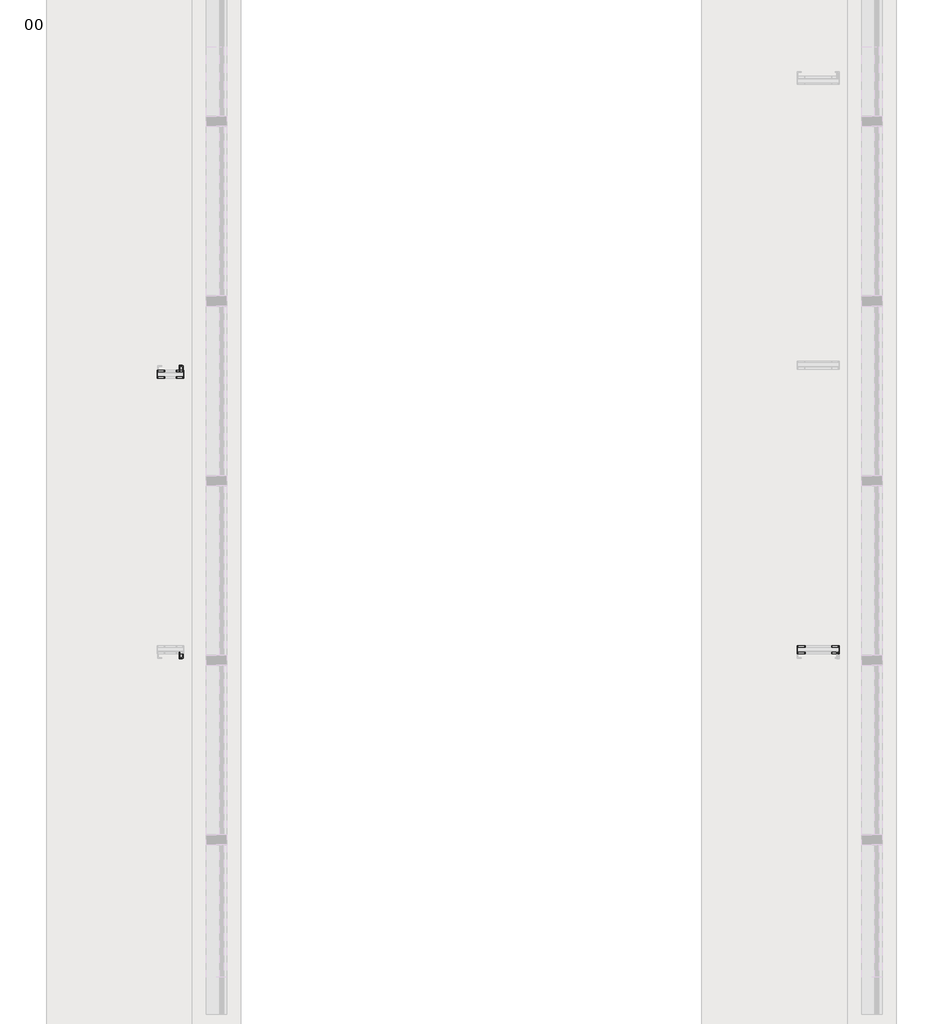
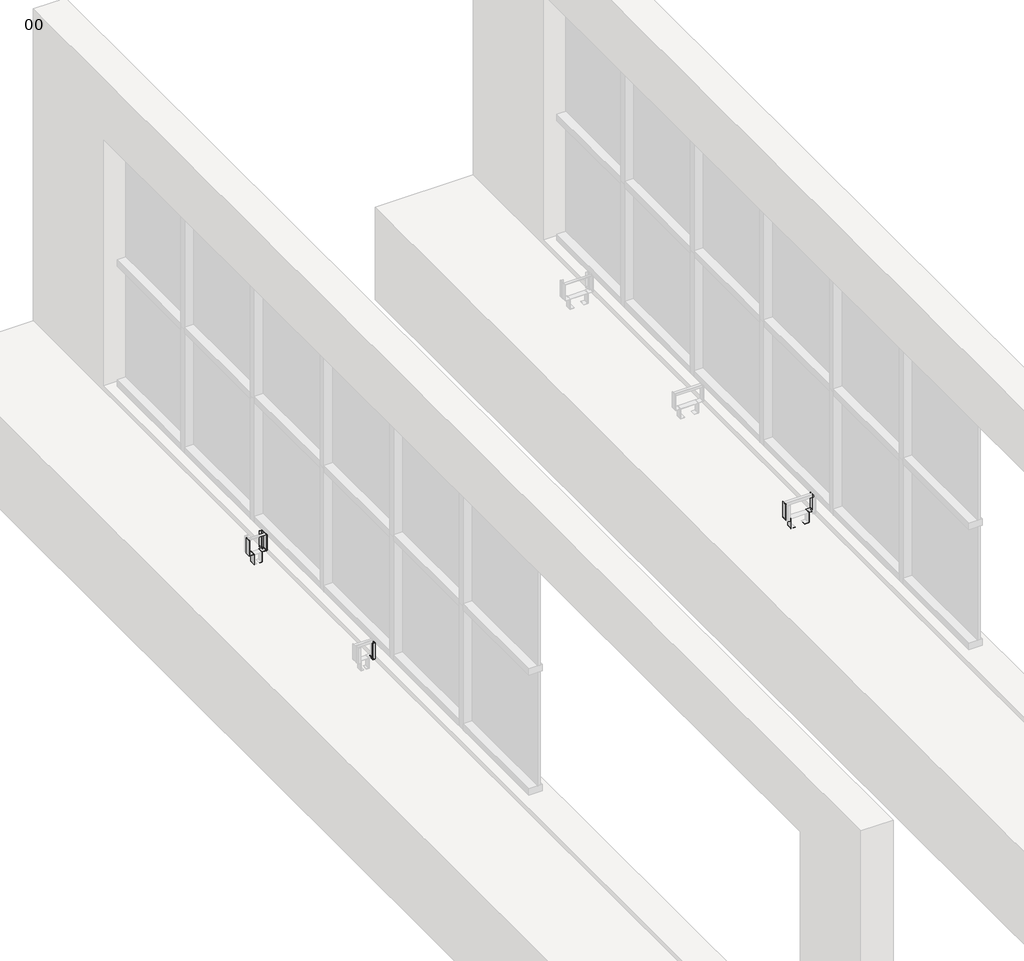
# One storey, part 3 of 4: 6 proxies.
"""IFC4 building model written with IfcOpenShell, lengths in millimetres."""

from ifc_helpers import new_model, si_unit, point, frame, frame_2d, origin, place, context, project, spatial, polyline, circle_curve, trimmed, segment, composite_curve, outline, extrude, element, save
from ifc_brep_helpers import plane_surface, cylinder_surface, revolved_surface, advanced_brep

model = new_model("IFC4")

# Units and contexts
model_context = context("Model", 3, world=origin())
ifc_project = project(units=[si_unit("LENGTHUNIT", "METRE", prefix="MILLI")], contexts=[model_context])

# Site, building, storey
site = spatial("IfcSite", under=ifc_project)
building = spatial("IfcBuilding", under=site)
storey = spatial("IfcBuildingStorey", under=building, Name="00", Elevation=0.0)

# Proxies
placement = place(None, origin())
element("IfcBuildingElementProxy", 1, Name="Support Bracket 17 : Support Bracket 4", ObjectType="Support Bracket 17 : Support Bracket 4", at=placement, inside=storey, context=model_context, shape_type="SweptSolid", body=[
    extrude(outline(composite_curve([segment(trimmed(circle_curve(frame_2d((11786.809734, 1034.8022928)), 1.524), [point((11788.333734, 1034.8022928))], [point((11786.809734, 1033.2782928))], False, "CARTESIAN"), True, "CONTINUOUS"), segment(polyline([(11786.809734, 1033.2782928), (11762.933734, 1033.2782928), (11762.933734, 1036.4532928), (11783.634734, 1036.4532928)]), True, "CONTINUOUS"), segment(trimmed(circle_curve(frame_2d((11783.634734, 1037.9772928)), 1.524), [point((11783.634734, 1036.4532928))], [point((11785.158734, 1037.9772928))], True, "CARTESIAN"), True, "CONTINUOUS"), segment(polyline([(11785.158734, 1037.9772928), (11785.158734, 1058.6782928), (11788.333734, 1058.6782928), (11788.333734, 1034.8022928)]), True, "CONTINUOUS")], self_intersect=False)), frame((0.0, 0.0, 1014.7101563), z_axis=(0.0, 0.0, 1.0), x_axis=(1.0, 0.0, 0.0)), (0.0, 0.0, 1.0), 155.3941284),
])
element("IfcBuildingElementProxy", 2, Name="Support Bracket 19 : Support Bracket 5", ObjectType="Support Bracket 19 : Support Bracket 5", at=placement, inside=storey, context=model_context, shape_type="AdvancedBrep", body=[
    advanced_brep(
    [(11767.4809261, 1079.4639543, 1025.7141928), (11767.4809261, 1079.4639543, 1015.1226469), (11769.7878177, 1079.4639543, 1012.8157553), (11780.1809261, 1079.4639543, 1012.8157553), (11780.1809261, 1079.4639543, 1009.6407553), (11768.4519892, 1079.4639543, 1009.6407553), (11764.3059261, 1079.4639543, 1013.7868184), (11764.3059261, 1079.4639543, 1025.7141928), (11767.4809261, 1030.7382928, 1025.7141928), (11764.3059261, 1030.7382928, 1025.7141928), (11764.3059261, 1030.7382928, 1013.7868184), (11768.4519892, 1030.7382928, 1009.6407553), (11780.1809261, 1030.7382928, 1009.6407553), (11780.1809261, 1030.7382928, 1012.8157553), (11769.7878177, 1030.7382928, 1012.8157553), (11767.4809261, 1030.7382928, 1015.1226469), (11767.4809261, 1033.2782928, 1025.7141928), (11764.3059261, 1033.2782928, 1025.7141928), (11764.3059261, 1033.2782928, 1014.7101563), (11764.3059261, 1036.4532928, 1014.7101563), (11764.3059261, 1036.4532928, 1025.7141928), (11767.4809261, 1036.4532928, 1015.1226469), (11767.518104, 1036.4532928, 1014.7101563), (11767.518104, 1033.2782928, 1014.7101563), (11767.4809261, 1033.2782928, 1015.1226469), (11767.4809261, 1036.4532928, 1025.7141928)],
    [
        (0, 1),
        (1, 2, circle_curve(frame((11769.7878177, 1079.4639543, 1015.1226469), z_axis=(0.0, -1.0, 0.0), x_axis=(1.0, 0.0, 0.0)), 2.3068916)),
        (2, 3),
        (3, 4),
        (4, 5),
        (5, 6, circle_curve(frame((11768.4519892, 1079.4639543, 1013.7868184), z_axis=(0.0, 1.0, 0.0), x_axis=(1.0, 0.0, 0.0)), 4.1460632)),
        (6, 7),
        (7, 0),
        (8, 9),
        (9, 10),
        (10, 11, circle_curve(frame((11768.4519892, 1030.7382928, 1013.7868184), z_axis=(0.0, -1.0, 0.0), x_axis=(1.0, 0.0, 0.0)), 4.1460632)),
        (11, 12),
        (12, 13),
        (13, 14),
        (14, 15, circle_curve(frame((11769.7878177, 1030.7382928, 1015.1226469), z_axis=(0.0, 1.0, 0.0), x_axis=(1.0, 0.0, 0.0)), 2.3068916)),
        (15, 8),
        (8, 16),
        (16, 17),
        (17, 9),
        (6, 10),
        (17, 18),
        (18, 19),
        (19, 20),
        (20, 7),
        (5, 11),
        (4, 12),
        (3, 13),
        (2, 14),
        (1, 21),
        (21, 22, circle_curve(frame((11769.7878177, 1036.4532928, 1015.1226469), z_axis=(0.0, -1.0, 0.0), x_axis=(1.0, 0.0, 0.0)), 2.3068916)),
        (22, 23),
        (23, 24, circle_curve(frame((11769.7878177, 1033.2782928, 1015.1226469), z_axis=(0.0, 1.0, 0.0), x_axis=(1.0, 0.0, 0.0)), 2.3068916)),
        (24, 15),
        (24, 16),
        (22, 19),
        (18, 23),
        (21, 25),
        (25, 20),
        (25, 0),
    ],
    [
        plane_surface(frame((11767.4809261, 1079.4639543, 1025.7141928), z_axis=(0.0, 1.0, 0.0), x_axis=(1.0, 0.0, 0.0))),
        plane_surface(frame((11767.4809261, 1030.7382928, 1025.7141928), z_axis=(0.0, -1.0, 0.0), x_axis=(-1.0, 0.0, 0.0))),
        plane_surface(frame((11767.4809261, 1030.7382928, 1025.7141928), z_axis=(0.0, 0.0, 1.0), x_axis=(0.0, 1.0, 0.0))),
        plane_surface(frame((11764.3059261, 1030.7382928, 1025.7141928), z_axis=(-1.0, 0.0, 0.0), x_axis=(0.0, 1.0, 0.0))),
        cylinder_surface(frame((11768.4519892, 1079.4639543, 1013.7868184), z_axis=(0.0, -1.0, 0.0), x_axis=(1.0, 0.0, 0.0)), 4.1460632),
        plane_surface(frame((11768.4519892, 1030.7382928, 1009.6407553), z_axis=(0.0, 0.0, -1.0), x_axis=(0.0, 1.0, 0.0))),
        plane_surface(frame((11780.1809261, 1030.7382928, 1009.6407553), z_axis=(1.0, 0.0, 0.0), x_axis=(0.0, 1.0, 0.0))),
        plane_surface(frame((11780.1809261, 1030.7382928, 1012.8157553), z_axis=(0.0, 0.0, 1.0), x_axis=(0.0, 1.0, 0.0))),
        revolved_surface(polyline([(11772.0947093, 1079.4639543, 1015.1226469), (11772.0947093, 1030.7382928, 1015.1226469)]), (11769.7878177, 1079.4639543, 1015.1226469), (0.0, 1.0, 0.0)),
        plane_surface(frame((11767.4809261, 1030.7382928, 1015.1226469), z_axis=(1.0, 0.0, 0.0), x_axis=(0.0, 1.0, 0.0))),
        plane_surface(frame((11788.333734, 1058.6782928, 1014.7101563), z_axis=(0.0, 0.0, 1.0), x_axis=(0.0, -1.0, 0.0))),
        plane_surface(frame((11783.634734, 1036.4532928, 1170.1042846), z_axis=(0.0, -1.0, 0.0), x_axis=(0.0, 0.0, -1.0))),
        plane_surface(frame((11762.933734, 1033.2782928, 1170.1042846), z_axis=(0.0, 1.0, 0.0), x_axis=(0.0, 0.0, -1.0))),
    ],
    [
        (0, [[1, 2, 3, 4, 5, 6, 7, 8]]),
        (1, [[9, 10, 11, 12, 13, 14, 15, 16]]),
        (2, [[-9, 17, 18, 19]]),
        (3, [[-7, 20, -10, -19, 21, 22, 23, 24]]),
        (4, [[-6, 25, -11, -20]]),
        (5, [[-5, 26, -12, -25]]),
        (6, [[-4, 27, -13, -26]]),
        (7, [[-3, 28, -14, -27]]),
        (8, [[-2, 29, 30, 31, 32, 33, -15, -28]]),
        (9, [[-16, -33, 34, -17]]),
        (10, [[35, -22, 36, -31]]),
        (11, [[-35, -30, 37, 38, -23]]),
        (12, [[-36, -21, -18, -34, -32]]),
        (2, [[-8, -24, -38, 39]]),
        (9, [[-1, -39, -37, -29]]),
    ],
),
])
element("IfcBuildingElementProxy", 3, Name="Support Bracket 2 : Support Bracket 1", ObjectType="Support Bracket 2 : Support Bracket 1", at=placement, inside=storey, context=model_context, shape_type="AdvancedBrep", body=[
    advanced_brep(
    [(15904.403734, 1112.0182928, 1014.7101562), (15863.6168902, 1112.0182928, 1014.7101562), (15860.5688902, 1112.0182928, 1011.6621562), (15860.5688902, 1112.0182928, 917.448), (15857.5208902, 1112.0182928, 914.4), (15819.2938902, 1112.0182928, 914.4), (15819.2938902, 1112.0182928, 917.575), (15854.3458902, 1112.0182928, 917.575), (15857.3938902, 1112.0182928, 920.623), (15857.3938902, 1112.0182928, 1014.8371562), (15860.4418902, 1112.0182928, 1017.8851562), (15900.085734, 1112.0182928, 1017.8851562), (15903.133734, 1112.0182928, 1020.9331562), (15903.133734, 1112.0182928, 1170.1042846), (15906.308734, 1112.0182928, 1170.1042846), (15906.308734, 1112.0182928, 1016.6151562), (15906.308734, 1061.2182928, 1016.6151562), (15904.403734, 1061.2182928, 1014.7101562), (15906.308734, 1061.2182928, 1170.1042846), (15903.133734, 1061.2182928, 1170.1042846), (15903.133734, 1061.2182928, 1020.9331562), (15900.085734, 1061.2182928, 1017.8851562), (15860.4418902, 1061.2182928, 1017.8851562), (15889.0446715, 1061.2182928, 1017.8851562), (15889.0446715, 1079.4639543, 1017.8851562), (15892.2196715, 1079.4639543, 1017.8851562), (15892.2196715, 1061.2182928, 1017.8851562), (15857.3938902, 1061.2182928, 1014.8371562), (15857.3938902, 1061.2182928, 920.623), (15854.3458902, 1061.2182928, 917.575), (15819.2938902, 1061.2182928, 917.575), (15819.2938902, 1061.2182928, 914.4), (15857.5208902, 1061.2182928, 914.4), (15860.5688902, 1061.2182928, 917.448), (15860.5688902, 1061.2182928, 1011.6621562), (15863.6168902, 1061.2182928, 1014.7101562), (15892.2305041, 1061.2182928, 1014.7101562), (15892.2305041, 1079.4639543, 1014.7101562), (15889.0446715, 1079.4639543, 1014.7101562), (15889.0446715, 1061.2182928, 1014.7101562), (15892.2196715, 1079.4639543, 1014.9334541), (15892.2196715, 1061.2182928, 1014.9334541)],
    [
        (0, 1),
        (1, 2, circle_curve(frame((15863.6168902, 1112.0182928, 1011.6621562), z_axis=(0.0, -1.0, 0.0), x_axis=(-1.0, 0.0, 0.0)), 3.048)),
        (2, 3),
        (3, 4, circle_curve(frame((15857.5208902, 1112.0182928, 917.448), z_axis=(0.0, 1.0, 0.0), x_axis=(-1.0, 0.0, 0.0)), 3.048)),
        (4, 5),
        (5, 6),
        (6, 7),
        (7, 8, circle_curve(frame((15854.3458902, 1112.0182928, 920.623), z_axis=(0.0, -1.0, 0.0), x_axis=(-1.0, 0.0, 0.0)), 3.048)),
        (8, 9),
        (9, 10, circle_curve(frame((15860.4418902, 1112.0182928, 1014.8371562), z_axis=(0.0, 1.0, 0.0), x_axis=(-1.0, 0.0, 0.0)), 3.048)),
        (10, 11),
        (11, 12, circle_curve(frame((15900.085734, 1112.0182928, 1020.9331562), z_axis=(0.0, -1.0, 0.0), x_axis=(-1.0, 0.0, 0.0)), 3.048)),
        (12, 13),
        (13, 14),
        (14, 15),
        (15, 0, circle_curve(frame((15904.403734, 1112.0182928, 1016.6151562), z_axis=(0.0, 1.0, 0.0), x_axis=(-1.0, 0.0, 0.0)), 1.905)),
        (15, 16),
        (16, 17, circle_curve(frame((15904.403734, 1061.2182928, 1016.6151562), z_axis=(0.0, 1.0, 0.0), x_axis=(-1.0, 0.0, 0.0)), 1.905)),
        (17, 0),
        (14, 18),
        (18, 16),
        (13, 19),
        (19, 18),
        (12, 20),
        (20, 19),
        (11, 21),
        (21, 20, circle_curve(frame((15900.085734, 1061.2182928, 1020.9331562), z_axis=(0.0, -1.0, 0.0), x_axis=(-1.0, 0.0, 0.0)), 3.048)),
        (10, 22),
        (22, 23),
        (23, 24),
        (24, 25),
        (25, 26),
        (26, 21),
        (9, 27),
        (27, 22, circle_curve(frame((15860.4418902, 1061.2182928, 1014.8371562), z_axis=(0.0, 1.0, 0.0), x_axis=(-1.0, 0.0, 0.0)), 3.048)),
        (8, 28),
        (28, 27),
        (7, 29),
        (29, 28, circle_curve(frame((15854.3458902, 1061.2182928, 920.623), z_axis=(0.0, -1.0, 0.0), x_axis=(-1.0, 0.0, 0.0)), 3.048)),
        (6, 30),
        (30, 29),
        (5, 31),
        (31, 30),
        (4, 32),
        (32, 31),
        (3, 33),
        (33, 32, circle_curve(frame((15857.5208902, 1061.2182928, 917.448), z_axis=(0.0, 1.0, 0.0), x_axis=(-1.0, 0.0, 0.0)), 3.048)),
        (2, 34),
        (34, 33),
        (1, 35),
        (35, 34, circle_curve(frame((15863.6168902, 1061.2182928, 1011.6621562), z_axis=(0.0, -1.0, 0.0), x_axis=(-1.0, 0.0, 0.0)), 3.048)),
        (17, 36),
        (36, 37),
        (37, 38),
        (38, 39),
        (39, 35),
        (39, 23),
        (24, 38),
        (37, 40, circle_curve(frame((15894.5265631, 1079.4639543, 1014.9334541), z_axis=(0.0, 1.0, 0.0), x_axis=(1.0, 0.0, 0.0)), 2.3068916)),
        (40, 25),
        (36, 41, circle_curve(frame((15894.5265631, 1061.2182928, 1014.9334541), z_axis=(0.0, 1.0, 0.0), x_axis=(1.0, 0.0, 0.0)), 2.3068916)),
        (41, 40),
        (41, 26),
    ],
    [
        plane_surface(frame((15657.2696715, 1112.0182928, 1014.7101563), z_axis=(0.0, 1.0, 0.0), x_axis=(-1.0, 0.0, 0.0))),
        cylinder_surface(frame((15904.403734, 1061.2182928, 1016.6151562), z_axis=(0.0, -1.0, 0.0), x_axis=(-1.0, 0.0, 0.0)), 1.905),
        plane_surface(frame((15906.308734, 1061.2182928, 1016.6151562), z_axis=(1.0, 0.0, 0.0), x_axis=(0.0, 1.0, 0.0))),
        plane_surface(frame((15906.308734, 1061.2182928, 1170.1042846), z_axis=(0.0, 0.0, 1.0), x_axis=(0.0, 1.0, 0.0))),
        plane_surface(frame((15903.133734, 1061.2182928, 1170.1042846), z_axis=(-1.0, 0.0, 0.0), x_axis=(0.0, 1.0, 0.0))),
        revolved_surface(polyline([(15897.037734, 1112.0182928, 1020.9331562), (15897.037734, 1061.2182928, 1020.9331562)]), (15900.085734, 1061.2182928, 1020.9331562), (0.0, 1.0, 0.0)),
        plane_surface(frame((15900.085734, 1061.2182928, 1017.8851562), z_axis=(0.0, 0.0, 1.0), x_axis=(0.0, 1.0, 0.0))),
        cylinder_surface(frame((15860.4418902, 1061.2182928, 1014.8371562), z_axis=(0.0, -1.0, 0.0), x_axis=(-1.0, 0.0, 0.0)), 3.048),
        plane_surface(frame((15857.3938902, 1061.2182928, 1014.8371562), z_axis=(-1.0, 0.0, 0.0), x_axis=(0.0, 1.0, 0.0))),
        revolved_surface(polyline([(15851.2978902, 1112.0182928, 920.623), (15851.2978902, 1061.2182928, 920.623)]), (15854.3458902, 1061.2182928, 920.623), (0.0, 1.0, 0.0)),
        plane_surface(frame((15854.3458902, 1061.2182928, 917.575), z_axis=(0.0, 0.0, 1.0), x_axis=(0.0, 1.0, 0.0))),
        plane_surface(frame((15819.2938902, 1061.2182928, 917.575), z_axis=(-1.0, 0.0, 0.0), x_axis=(0.0, 1.0, 0.0))),
        plane_surface(frame((15819.2938902, 1061.2182928, 914.4), z_axis=(0.0, 0.0, -1.0), x_axis=(0.0, 1.0, 0.0))),
        cylinder_surface(frame((15857.5208902, 1061.2182928, 917.448), z_axis=(0.0, -1.0, 0.0), x_axis=(-1.0, 0.0, 0.0)), 3.048),
        plane_surface(frame((15860.5688902, 1061.2182928, 917.448), z_axis=(1.0, 0.0, 0.0), x_axis=(0.0, 1.0, 0.0))),
        revolved_surface(polyline([(15860.5688902, 1112.0182928, 1011.6621562), (15860.5688902, 1061.2182928, 1011.6621562)]), (15863.6168902, 1061.2182928, 1011.6621562), (0.0, 1.0, 0.0)),
        plane_surface(frame((15863.6168902, 1061.2182928, 1014.7101562), z_axis=(0.0, 0.0, -1.0), x_axis=(0.0, 1.0, 0.0))),
        plane_surface(frame((15657.2696715, 1061.2182928, 1014.7101562), z_axis=(0.0, -1.0, 0.0), x_axis=(1.0, 0.0, 0.0))),
        plane_surface(frame((15892.2196715, 1079.4639543, 1025.525), z_axis=(0.0, -1.0, 0.0), x_axis=(1.0, 0.0, 0.0))),
        plane_surface(frame((15889.0446715, 1030.7382928, 1025.525), z_axis=(1.0, 0.0, 0.0), x_axis=(0.0, 1.0, 0.0))),
        cylinder_surface(frame((15894.5265631, 1079.4639543, 1014.9334541), z_axis=(0.0, 1.0, 0.0), x_axis=(1.0, 0.0, 0.0)), 2.3068916),
        plane_surface(frame((15892.2196715, 1030.7382928, 1014.9334541), z_axis=(-1.0, 0.0, 0.0), x_axis=(0.0, 1.0, 0.0))),
    ],
    [
        (0, [[1, 2, 3, 4, 5, 6, 7, 8, 9, 10, 11, 12, 13, 14, 15, 16]]),
        (1, [[-16, 17, 18, 19]]),
        (2, [[-15, 20, 21, -17]]),
        (3, [[-14, 22, 23, -20]]),
        (4, [[-13, 24, 25, -22]]),
        (5, [[-12, 26, 27, -24]]),
        (6, [[-11, 28, 29, 30, 31, 32, 33, -26]]),
        (7, [[-10, 34, 35, -28]]),
        (8, [[-9, 36, 37, -34]]),
        (9, [[-8, 38, 39, -36]]),
        (10, [[-7, 40, 41, -38]]),
        (11, [[-6, 42, 43, -40]]),
        (12, [[-5, 44, 45, -42]]),
        (13, [[-4, 46, 47, -44]]),
        (14, [[-3, 48, 49, -46]]),
        (15, [[-2, 50, 51, -48]]),
        (16, [[-1, -19, 52, 53, 54, 55, 56, -50]]),
        (17, [[-35, -37, -39, -41, -43, -45, -47, -49, -51, -56, 57, -29]]),
        (18, [[58, -54, 59, 60, -31]]),
        (19, [[-58, -30, -57, -55]]),
        (20, [[-59, -53, 61, 62]]),
        (21, [[-60, -62, 63, -32]]),
        (17, [[-18, -21, -23, -25, -27, -33, -63, -61, -52]]),
    ],
),
    advanced_brep(
    [(15645.085609, 1061.2182928, 1014.7101562), (15685.8724527, 1061.2182928, 1014.7101562), (15688.9204527, 1061.2182928, 1011.6621562), (15688.9204527, 1061.2182928, 917.448), (15691.9684527, 1061.2182928, 914.4), (15730.1954527, 1061.2182928, 914.4), (15730.1954527, 1061.2182928, 917.575), (15695.1434527, 1061.2182928, 917.575), (15692.0954527, 1061.2182928, 920.623), (15692.0954527, 1061.2182928, 1014.8371562), (15689.0474527, 1061.2182928, 1017.8851562), (15649.403609, 1061.2182928, 1017.8851562), (15646.355609, 1061.2182928, 1020.9331562), (15646.355609, 1061.2182928, 1170.1042846), (15643.180609, 1061.2182928, 1170.1042846), (15643.180609, 1061.2182928, 1016.6151562), (15645.085609, 1112.0182928, 1014.7101563), (15685.8724527, 1112.0182928, 1014.7101563), (15688.9204527, 1112.0182928, 1011.6621563), (15688.9204527, 1112.0182928, 917.448), (15691.9684527, 1112.0182928, 914.4), (15730.1954527, 1112.0182928, 914.4), (15730.1954527, 1112.0182928, 917.575), (15695.1434527, 1112.0182928, 917.575), (15692.0954527, 1112.0182928, 920.623), (15692.0954527, 1112.0182928, 1014.8371563), (15689.0474527, 1112.0182928, 1017.8851563), (15649.403609, 1112.0182928, 1017.8851563), (15646.355609, 1112.0182928, 1020.9331563), (15646.355609, 1112.0182928, 1170.1042846), (15643.180609, 1112.0182928, 1170.1042846), (15643.180609, 1112.0182928, 1016.6151563)],
    [
        (0, 1),
        (1, 2, circle_curve(frame((15685.8724527, 1061.2182928, 1011.6621562), z_axis=(0.0, 1.0, 0.0), x_axis=(1.0, 0.0, 0.0)), 3.048)),
        (2, 3),
        (3, 4, circle_curve(frame((15691.9684527, 1061.2182928, 917.448), z_axis=(0.0, -1.0, 0.0), x_axis=(1.0, 0.0, 0.0)), 3.048)),
        (4, 5),
        (5, 6),
        (6, 7),
        (7, 8, circle_curve(frame((15695.1434527, 1061.2182928, 920.623), z_axis=(0.0, 1.0, 0.0), x_axis=(1.0, 0.0, 0.0)), 3.048)),
        (8, 9),
        (9, 10, circle_curve(frame((15689.0474527, 1061.2182928, 1014.8371562), z_axis=(0.0, -1.0, 0.0), x_axis=(1.0, 0.0, 0.0)), 3.048)),
        (10, 11),
        (11, 12, circle_curve(frame((15649.403609, 1061.2182928, 1020.9331562), z_axis=(0.0, 1.0, 0.0), x_axis=(1.0, 0.0, 0.0)), 3.048)),
        (12, 13),
        (13, 14),
        (14, 15),
        (15, 0, circle_curve(frame((15645.085609, 1061.2182928, 1016.6151562), z_axis=(0.0, -1.0, 0.0), x_axis=(1.0, 0.0, 0.0)), 1.905)),
        (16, 17),
        (17, 1),
        (0, 16),
        (17, 18, circle_curve(frame((15685.8724527, 1112.0182928, 1011.6621563), z_axis=(0.0, 1.0, 0.0), x_axis=(1.0, 0.0, 0.0)), 3.048)),
        (18, 2),
        (18, 19),
        (19, 3),
        (19, 20, circle_curve(frame((15691.9684527, 1112.0182928, 917.448), z_axis=(0.0, -1.0, 0.0), x_axis=(1.0, 0.0, 0.0)), 3.048)),
        (20, 4),
        (20, 21),
        (21, 5),
        (21, 22),
        (22, 6),
        (22, 23),
        (23, 7),
        (23, 24, circle_curve(frame((15695.1434527, 1112.0182928, 920.623), z_axis=(0.0, 1.0, 0.0), x_axis=(1.0, 0.0, 0.0)), 3.048)),
        (24, 8),
        (24, 25),
        (25, 9),
        (25, 26, circle_curve(frame((15689.0474527, 1112.0182928, 1014.8371563), z_axis=(0.0, -1.0, 0.0), x_axis=(1.0, 0.0, 0.0)), 3.048)),
        (26, 10),
        (26, 27),
        (27, 11),
        (27, 28, circle_curve(frame((15649.403609, 1112.0182928, 1020.9331563), z_axis=(0.0, 1.0, 0.0), x_axis=(1.0, 0.0, 0.0)), 3.048)),
        (28, 12),
        (28, 29),
        (29, 13),
        (29, 30),
        (30, 14),
        (30, 31),
        (31, 15),
        (31, 16, circle_curve(frame((15645.085609, 1112.0182928, 1016.6151563), z_axis=(0.0, -1.0, 0.0), x_axis=(1.0, 0.0, 0.0)), 1.905)),
    ],
    [
        plane_surface(frame((15657.2696715, 1061.2182928, 1014.7101562), z_axis=(0.0, -1.0, 0.0), x_axis=(1.0, 0.0, 0.0))),
        plane_surface(frame((15645.085609, 1061.2182928, 1014.7101562), z_axis=(0.0, 0.0, -1.0), x_axis=(0.0, 1.0, 0.0))),
        revolved_surface(polyline([(15688.9204527, 1112.0182928, 1011.6621563), (15688.9204527, 1061.2182928, 1011.6621563)]), (15685.8724527, 1112.0182928, 1011.6621563), (0.0, 1.0, 0.0)),
        plane_surface(frame((15688.9204527, 1061.2182928, 1011.6621562), z_axis=(-1.0, 0.0, 0.0), x_axis=(0.0, 1.0, 0.0))),
        cylinder_surface(frame((15691.9684527, 1112.0182928, 917.448), z_axis=(0.0, -1.0, 0.0), x_axis=(1.0, 0.0, 0.0)), 3.048),
        plane_surface(frame((15691.9684527, 1061.2182928, 914.4), z_axis=(0.0, 0.0, -1.0), x_axis=(0.0, 1.0, 0.0))),
        plane_surface(frame((15730.1954527, 1061.2182928, 914.4), z_axis=(1.0, 0.0, 0.0), x_axis=(0.0, 1.0, 0.0))),
        plane_surface(frame((15730.1954527, 1061.2182928, 917.575), z_axis=(0.0, 0.0, 1.0), x_axis=(0.0, 1.0, 0.0))),
        revolved_surface(polyline([(15698.1914527, 1112.0182928, 920.623), (15698.1914527, 1061.2182928, 920.623)]), (15695.1434527, 1112.0182928, 920.623), (0.0, 1.0, 0.0)),
        plane_surface(frame((15692.0954527, 1061.2182928, 920.623), z_axis=(1.0, 0.0, 0.0), x_axis=(0.0, 1.0, 0.0))),
        cylinder_surface(frame((15689.0474527, 1112.0182928, 1014.8371563), z_axis=(0.0, -1.0, 0.0), x_axis=(1.0, 0.0, 0.0)), 3.048),
        plane_surface(frame((15689.0474527, 1061.2182928, 1017.8851562), z_axis=(0.0, 0.0, 1.0), x_axis=(0.0, 1.0, 0.0))),
        revolved_surface(polyline([(15652.451609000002, 1112.0182928, 1020.9331563), (15652.451609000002, 1061.2182928, 1020.9331563)]), (15649.403609, 1112.0182928, 1020.9331563), (0.0, 1.0, 0.0)),
        plane_surface(frame((15646.355609, 1061.2182928, 1020.9331562), z_axis=(1.0, 0.0, 0.0), x_axis=(0.0, 1.0, 0.0))),
        plane_surface(frame((15646.355609, 1061.2182928, 1170.1042846), z_axis=(0.0, 0.0, 1.0), x_axis=(0.0, 1.0, 0.0))),
        plane_surface(frame((15643.180609, 1061.2182928, 1170.1042846), z_axis=(-1.0, 0.0, 0.0), x_axis=(0.0, 1.0, 0.0))),
        cylinder_surface(frame((15645.085609, 1112.0182928, 1016.6151563), z_axis=(0.0, -1.0, 0.0), x_axis=(1.0, 0.0, 0.0)), 1.905),
        plane_surface(frame((15657.2696715, 1112.0182928, 1014.7101563), z_axis=(0.0, 1.0, 0.0), x_axis=(-1.0, 0.0, 0.0))),
    ],
    [
        (0, [[1, 2, 3, 4, 5, 6, 7, 8, 9, 10, 11, 12, 13, 14, 15, 16]]),
        (1, [[17, 18, -1, 19]]),
        (2, [[20, 21, -2, -18]]),
        (3, [[22, 23, -3, -21]]),
        (4, [[24, 25, -4, -23]]),
        (5, [[26, 27, -5, -25]]),
        (6, [[28, 29, -6, -27]]),
        (7, [[30, 31, -7, -29]]),
        (8, [[32, 33, -8, -31]]),
        (9, [[34, 35, -9, -33]]),
        (10, [[36, 37, -10, -35]]),
        (11, [[38, 39, -11, -37]]),
        (12, [[40, 41, -12, -39]]),
        (13, [[42, 43, -13, -41]]),
        (14, [[44, 45, -14, -43]]),
        (15, [[46, 47, -15, -45]]),
        (16, [[48, -19, -16, -47]]),
        (17, [[-48, -46, -44, -42, -40, -38, -36, -34, -32, -30, -28, -26, -24, -22, -20, -17]]),
    ],
),
])
element("IfcBuildingElementProxy", 4, Name="Support Bracket 20 : Support Bracket 1", ObjectType="Support Bracket 20 : Support Bracket 1", at=placement, inside=storey, context=model_context, shape_type="AdvancedBrep", body=[
    advanced_brep(
    [(11748.8168902, 2793.0418866, 1014.7101562), (11789.603734, 2793.0418866, 1014.7101562), (11791.508734, 2793.0418866, 1016.6151562), (11791.508734, 2793.0418866, 1170.1042846), (11788.333734, 2793.0418866, 1170.1042846), (11788.333734, 2793.0418866, 1020.9331562), (11785.285734, 2793.0418866, 1017.8851562), (11745.6418902, 2793.0418866, 1017.8851562), (11742.5938902, 2793.0418866, 1014.8371562), (11742.5938902, 2793.0418866, 920.623), (11739.5458902, 2793.0418866, 917.575), (11719.7735777, 2793.0418866, 917.575), (11719.7735777, 2793.0418866, 914.4), (11742.7208902, 2793.0418866, 914.4), (11745.7688902, 2793.0418866, 917.448), (11745.7688902, 2793.0418866, 1011.6621562), (11791.508734, 2843.8418866, 1016.6151562), (11789.603734, 2843.8418866, 1014.7101562), (11767.518104, 2843.8418866, 1014.7101562), (11767.4809261, 2843.8418866, 1015.1226469), (11767.4809261, 2843.8418866, 1017.8851562), (11785.285734, 2843.8418866, 1017.8851562), (11788.333734, 2843.8418866, 1020.9331562), (11788.333734, 2843.8418866, 1170.1042846), (11791.508734, 2843.8418866, 1170.1042846), (11767.4809261, 2825.5962251, 1017.8851562), (11764.3059261, 2825.5962251, 1017.8851562), (11764.3059261, 2843.8418866, 1017.8851562), (11745.6418902, 2843.8418866, 1017.8851562), (11742.5938902, 2843.8418866, 1014.8371562), (11742.5938902, 2843.8418866, 920.623), (11739.5458902, 2843.8418866, 917.575), (11719.7735777, 2843.8418866, 917.575), (11719.7735777, 2843.8418866, 914.4), (11742.7208902, 2843.8418866, 914.4), (11745.7688902, 2843.8418866, 917.448), (11745.7688902, 2843.8418866, 1011.6621562), (11748.8168902, 2843.8418866, 1014.7101562), (11764.3059261, 2843.8418866, 1014.7101562), (11764.3059261, 2825.5962251, 1014.7101562), (11767.518104, 2825.5962251, 1014.7101562), (11767.4809261, 2825.5962251, 1015.1226469)],
    [
        (0, 1),
        (1, 2, circle_curve(frame((11789.603734, 2793.0418866, 1016.6151562), z_axis=(0.0, -1.0, 0.0), x_axis=(-1.0, 0.0, 0.0)), 1.905)),
        (2, 3),
        (3, 4),
        (4, 5),
        (5, 6, circle_curve(frame((11785.285734, 2793.0418866, 1020.9331562), z_axis=(0.0, 1.0, 0.0), x_axis=(-1.0, 0.0, 0.0)), 3.048)),
        (6, 7),
        (7, 8, circle_curve(frame((11745.6418902, 2793.0418866, 1014.8371562), z_axis=(0.0, -1.0, 0.0), x_axis=(-1.0, 0.0, 0.0)), 3.048)),
        (8, 9),
        (9, 10, circle_curve(frame((11739.5458902, 2793.0418866, 920.623), z_axis=(0.0, 1.0, 0.0), x_axis=(-1.0, 0.0, 0.0)), 3.048)),
        (10, 11),
        (11, 12),
        (12, 13),
        (13, 14, circle_curve(frame((11742.7208902, 2793.0418866, 917.448), z_axis=(0.0, -1.0, 0.0), x_axis=(-1.0, 0.0, 0.0)), 3.048)),
        (14, 15),
        (15, 0, circle_curve(frame((11748.8168902, 2793.0418866, 1011.6621562), z_axis=(0.0, 1.0, 0.0), x_axis=(-1.0, 0.0, 0.0)), 3.048)),
        (16, 17, circle_curve(frame((11789.603734, 2843.8418866, 1016.6151562), z_axis=(0.0, 1.0, 0.0), x_axis=(-1.0, 0.0, 0.0)), 1.905)),
        (17, 18),
        (18, 19, circle_curve(frame((11769.7878177, 2843.8418866, 1015.1226469), z_axis=(0.0, 1.0, 0.0), x_axis=(1.0, 0.0, 0.0)), 2.3068916)),
        (19, 20),
        (20, 21),
        (21, 22, circle_curve(frame((11785.285734, 2843.8418866, 1020.9331562), z_axis=(0.0, -1.0, 0.0), x_axis=(-1.0, 0.0, 0.0)), 3.048)),
        (22, 23),
        (23, 24),
        (24, 16),
        (1, 17),
        (16, 2),
        (24, 3),
        (23, 4),
        (22, 5),
        (21, 6),
        (20, 25),
        (25, 26),
        (26, 27),
        (27, 28),
        (28, 7),
        (28, 29, circle_curve(frame((11745.6418902, 2843.8418866, 1014.8371562), z_axis=(0.0, -1.0, 0.0), x_axis=(-1.0, 0.0, 0.0)), 3.048)),
        (29, 8),
        (29, 30),
        (30, 9),
        (30, 31, circle_curve(frame((11739.5458902, 2843.8418866, 920.623), z_axis=(0.0, 1.0, 0.0), x_axis=(-1.0, 0.0, 0.0)), 3.048)),
        (31, 10),
        (31, 32),
        (32, 11),
        (12, 33),
        (33, 34),
        (34, 13),
        (34, 35, circle_curve(frame((11742.7208902, 2843.8418866, 917.448), z_axis=(0.0, -1.0, 0.0), x_axis=(-1.0, 0.0, 0.0)), 3.048)),
        (35, 14),
        (35, 36),
        (36, 15),
        (36, 37, circle_curve(frame((11748.8168902, 2843.8418866, 1011.6621562), z_axis=(0.0, 1.0, 0.0), x_axis=(-1.0, 0.0, 0.0)), 3.048)),
        (37, 0),
        (37, 38),
        (38, 39),
        (39, 40),
        (40, 18),
        (32, 33),
        (25, 41),
        (41, 40, circle_curve(frame((11769.7878177, 2825.5962251, 1015.1226469), z_axis=(0.0, -1.0, 0.0), x_axis=(1.0, 0.0, 0.0)), 2.3068916)),
        (39, 26),
        (38, 27),
        (41, 19),
    ],
    [
        plane_surface(frame((11627.6390465, 2793.0418866, 1016.6151563), z_axis=(0.0, -1.0, 0.0), x_axis=(0.0, 0.0, 1.0))),
        plane_surface(frame((11627.6390465, 2843.8418866, 1016.6151562), z_axis=(0.0, 1.0, 0.0), x_axis=(0.0, 0.0, -1.0))),
        cylinder_surface(frame((11789.603734, 2843.8418866, 1016.6151562), z_axis=(0.0, 1.0, 0.0), x_axis=(-1.0, 0.0, 0.0)), 1.905),
        plane_surface(frame((11791.508734, 2843.8418866, 1170.1042846), z_axis=(1.0, 0.0, 0.0), x_axis=(0.0, -1.0, 0.0))),
        plane_surface(frame((11788.333734, 2843.8418866, 1170.1042846), z_axis=(0.0, 0.0, 1.0), x_axis=(0.0, -1.0, 0.0))),
        plane_surface(frame((11788.333734, 2843.8418866, 1020.9331562), z_axis=(-1.0, 0.0, 0.0), x_axis=(0.0, -1.0, 0.0))),
        revolved_surface(polyline([(11782.237733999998, 2793.0418866, 1020.9331562), (11782.237733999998, 2843.8418866, 1020.9331562)]), (11785.285734, 2843.8418866, 1020.9331562), (0.0, -1.0, 0.0)),
        plane_surface(frame((11745.6418902, 2843.8418866, 1017.8851562), z_axis=(0.0, 0.0, 1.0), x_axis=(0.0, -1.0, 0.0))),
        cylinder_surface(frame((11745.6418902, 2843.8418866, 1014.8371562), z_axis=(0.0, 1.0, 0.0), x_axis=(-1.0, 0.0, 0.0)), 3.048),
        plane_surface(frame((11742.5938902, 2843.8418866, 920.623), z_axis=(-1.0, 0.0, 0.0), x_axis=(0.0, -1.0, 0.0))),
        revolved_surface(polyline([(11736.497890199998, 2793.0418866, 920.623), (11736.497890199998, 2843.8418866, 920.623)]), (11739.5458902, 2843.8418866, 920.623), (0.0, -1.0, 0.0)),
        plane_surface(frame((11719.7735777, 2843.8418866, 917.575), z_axis=(0.0, 0.0, 1.0), x_axis=(0.0, -1.0, 0.0))),
        plane_surface(frame((11742.7208902, 2843.8418866, 914.4), z_axis=(0.0, 0.0, -1.0), x_axis=(0.0, -1.0, 0.0))),
        cylinder_surface(frame((11742.7208902, 2843.8418866, 917.448), z_axis=(0.0, 1.0, 0.0), x_axis=(-1.0, 0.0, 0.0)), 3.048),
        plane_surface(frame((11745.7688902, 2843.8418866, 1011.6621562), z_axis=(1.0, 0.0, 0.0), x_axis=(0.0, -1.0, 0.0))),
        revolved_surface(polyline([(11745.768890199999, 2793.0418866, 1011.6621562), (11745.768890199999, 2843.8418866, 1011.6621562)]), (11748.8168902, 2843.8418866, 1011.6621562), (0.0, -1.0, 0.0)),
        plane_surface(frame((11789.603734, 2843.8418866, 1014.7101562), z_axis=(0.0, 0.0, -1.0), x_axis=(0.0, -1.0, 0.0))),
        plane_surface(frame((11719.7735777, 2843.8418866, 914.4), z_axis=(-1.0, 0.0, 0.0), x_axis=(0.0, -1.0, 0.0))),
        plane_surface(frame((11767.4809261, 2825.5962251, 1013.0141928), z_axis=(0.0, 1.0, 0.0), x_axis=(0.0, 0.0, 1.0))),
        plane_surface(frame((11764.3059261, 2874.3218866, 1013.7868184), z_axis=(1.0, 0.0, 0.0), x_axis=(0.0, -1.0, 0.0))),
        cylinder_surface(frame((11769.7878177, 2825.5962251, 1015.1226469), z_axis=(0.0, -1.0, 0.0), x_axis=(1.0, 0.0, 0.0)), 2.3068916),
        plane_surface(frame((11767.4809261, 2874.3218866, 1025.7141928), z_axis=(-1.0, 0.0, 0.0), x_axis=(0.0, -1.0, 0.0))),
    ],
    [
        (0, [[1, 2, 3, 4, 5, 6, 7, 8, 9, 10, 11, 12, 13, 14, 15, 16]]),
        (1, [[17, 18, 19, 20, 21, 22, 23, 24, 25]]),
        (2, [[-2, 26, -17, 27]]),
        (3, [[-3, -27, -25, 28]]),
        (4, [[-4, -28, -24, 29]]),
        (5, [[-5, -29, -23, 30]]),
        (6, [[-6, -30, -22, 31]]),
        (7, [[-7, -31, -21, 32, 33, 34, 35, 36]]),
        (8, [[-8, -36, 37, 38]]),
        (9, [[-9, -38, 39, 40]]),
        (10, [[-10, -40, 41, 42]]),
        (11, [[-11, -42, 43, 44]]),
        (12, [[-13, 45, 46, 47]]),
        (13, [[-14, -47, 48, 49]]),
        (14, [[-15, -49, 50, 51]]),
        (15, [[-16, -51, 52, 53]]),
        (16, [[-1, -53, 54, 55, 56, 57, -18, -26]]),
        (17, [[-12, -44, 58, -45]]),
        (18, [[59, 60, -56, 61, -33]]),
        (19, [[-61, -55, 62, -34]]),
        (20, [[-60, 63, -19, -57]]),
        (21, [[-59, -32, -20, -63]]),
        (1, [[-37, -35, -62, -54, -52, -50, -48, -46, -58, -43, -41, -39]]),
    ],
),
    advanced_brep(
    [(11666.5208902, 2793.0418866, 1014.7101563), (11625.7340465, 2793.0418866, 1014.7101563), (11625.7340465, 2843.8418866, 1014.7101562), (11666.5208902, 2843.8418866, 1014.7101562), (11669.5688902, 2793.0418866, 1011.6621563), (11669.5688902, 2843.8418866, 1011.6621562), (11669.5688902, 2793.0418866, 917.448), (11669.5688902, 2843.8418866, 917.448), (11672.6168902, 2793.0418866, 914.4), (11672.6168902, 2843.8418866, 914.4), (11695.5642027, 2793.0418866, 914.4), (11695.5642027, 2843.8418866, 914.4), (11675.7918902, 2793.0418866, 917.575), (11695.5642027, 2793.0418866, 917.575), (11695.5642027, 2843.8418866, 917.575), (11675.7918902, 2843.8418866, 917.575), (11672.7438902, 2793.0418866, 920.623), (11672.7438902, 2843.8418866, 920.623), (11672.7438902, 2793.0418866, 1014.8371563), (11672.7438902, 2843.8418866, 1014.8371562), (11669.6958902, 2793.0418866, 1017.8851563), (11669.6958902, 2843.8418866, 1017.8851562), (11630.0520465, 2793.0418866, 1017.8851563), (11630.0520465, 2843.8418866, 1017.8851562), (11627.0040465, 2793.0418866, 1020.9331563), (11627.0040465, 2843.8418866, 1020.9331562), (11627.0040465, 2793.0418866, 1170.1042846), (11627.0040465, 2843.8418866, 1170.1042846), (11623.8290465, 2793.0418866, 1170.1042846), (11623.8290465, 2843.8418866, 1170.1042846), (11623.8290465, 2793.0418866, 1016.6151563), (11623.8290465, 2843.8418866, 1016.6151562)],
    [
        (0, 1),
        (1, 2),
        (2, 3),
        (3, 0),
        (4, 0, circle_curve(frame((11666.5208902, 2793.0418866, 1011.6621563), z_axis=(0.0, -1.0, 0.0), x_axis=(1.0, 0.0, 0.0)), 3.048)),
        (3, 5, circle_curve(frame((11666.5208902, 2843.8418866, 1011.6621562), z_axis=(0.0, 1.0, 0.0), x_axis=(1.0, 0.0, 0.0)), 3.048)),
        (5, 4),
        (6, 4),
        (5, 7),
        (7, 6),
        (8, 6, circle_curve(frame((11672.6168902, 2793.0418866, 917.448), z_axis=(0.0, 1.0, 0.0), x_axis=(1.0, 0.0, 0.0)), 3.048)),
        (7, 9, circle_curve(frame((11672.6168902, 2843.8418866, 917.448), z_axis=(0.0, -1.0, 0.0), x_axis=(1.0, 0.0, 0.0)), 3.048)),
        (9, 8),
        (10, 8),
        (9, 11),
        (11, 10),
        (12, 13),
        (13, 14),
        (14, 15),
        (15, 12),
        (16, 12, circle_curve(frame((11675.7918902, 2793.0418866, 920.623), z_axis=(0.0, -1.0, 0.0), x_axis=(1.0, 0.0, 0.0)), 3.048)),
        (15, 17, circle_curve(frame((11675.7918902, 2843.8418866, 920.623), z_axis=(0.0, 1.0, 0.0), x_axis=(1.0, 0.0, 0.0)), 3.048)),
        (17, 16),
        (18, 16),
        (17, 19),
        (19, 18),
        (20, 18, circle_curve(frame((11669.6958902, 2793.0418866, 1014.8371563), z_axis=(0.0, 1.0, 0.0), x_axis=(1.0, 0.0, 0.0)), 3.048)),
        (19, 21, circle_curve(frame((11669.6958902, 2843.8418866, 1014.8371562), z_axis=(0.0, -1.0, 0.0), x_axis=(1.0, 0.0, 0.0)), 3.048)),
        (21, 20),
        (22, 20),
        (21, 23),
        (23, 22),
        (24, 22, circle_curve(frame((11630.0520465, 2793.0418866, 1020.9331563), z_axis=(0.0, -1.0, 0.0), x_axis=(1.0, 0.0, 0.0)), 3.048)),
        (23, 25, circle_curve(frame((11630.0520465, 2843.8418866, 1020.9331562), z_axis=(0.0, 1.0, 0.0), x_axis=(1.0, 0.0, 0.0)), 3.048)),
        (25, 24),
        (26, 24),
        (25, 27),
        (27, 26),
        (28, 26),
        (27, 29),
        (29, 28),
        (30, 28),
        (29, 31),
        (31, 30),
        (1, 30, circle_curve(frame((11625.7340465, 2793.0418866, 1016.6151563), z_axis=(0.0, 1.0, 0.0), x_axis=(1.0, 0.0, 0.0)), 1.905)),
        (31, 2, circle_curve(frame((11625.7340465, 2843.8418866, 1016.6151562), z_axis=(0.0, -1.0, 0.0), x_axis=(1.0, 0.0, 0.0)), 1.905)),
        (10, 13),
        (14, 11),
    ],
    [
        plane_surface(frame((11666.5208902, 2843.8418866, 1014.7101562), z_axis=(0.0, 0.0, -1.0), x_axis=(0.0, -1.0, 0.0))),
        revolved_surface(polyline([(11669.5688902, 2793.0418866, 1011.6621563), (11669.5688902, 2843.8418866, 1011.6621563)]), (11666.5208902, 2793.0418866, 1011.6621563), (0.0, -1.0, 0.0)),
        plane_surface(frame((11669.5688902, 2843.8418866, 917.448), z_axis=(-1.0, 0.0, 0.0), x_axis=(0.0, -1.0, 0.0))),
        cylinder_surface(frame((11672.6168902, 2793.0418866, 917.448), z_axis=(0.0, 1.0, 0.0), x_axis=(1.0, 0.0, 0.0)), 3.048),
        plane_surface(frame((11695.5642027, 2843.8418866, 914.4), z_axis=(0.0, 0.0, -1.0), x_axis=(0.0, -1.0, 0.0))),
        plane_surface(frame((11675.7918902, 2843.8418866, 917.575), z_axis=(0.0, 0.0, 1.0), x_axis=(0.0, -1.0, 0.0))),
        revolved_surface(polyline([(11678.8398902, 2793.0418866, 920.623), (11678.8398902, 2843.8418866, 920.623)]), (11675.7918902, 2793.0418866, 920.623), (0.0, -1.0, 0.0)),
        plane_surface(frame((11672.7438902, 2843.8418866, 1014.8371562), z_axis=(1.0, 0.0, 0.0), x_axis=(0.0, -1.0, 0.0))),
        cylinder_surface(frame((11669.6958902, 2793.0418866, 1014.8371563), z_axis=(0.0, 1.0, 0.0), x_axis=(1.0, 0.0, 0.0)), 3.048),
        plane_surface(frame((11630.0520465, 2843.8418866, 1017.8851562), z_axis=(0.0, 0.0, 1.0), x_axis=(0.0, -1.0, 0.0))),
        revolved_surface(polyline([(11633.100046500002, 2793.0418866, 1020.9331563), (11633.100046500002, 2843.8418866, 1020.9331563)]), (11630.0520465, 2793.0418866, 1020.9331563), (0.0, -1.0, 0.0)),
        plane_surface(frame((11627.0040465, 2843.8418866, 1170.1042846), z_axis=(1.0, 0.0, 0.0), x_axis=(0.0, -1.0, 0.0))),
        plane_surface(frame((11623.8290465, 2843.8418866, 1170.1042846), z_axis=(0.0, 0.0, 1.0), x_axis=(0.0, -1.0, 0.0))),
        plane_surface(frame((11623.8290465, 2843.8418866, 1016.6151562), z_axis=(-1.0, 0.0, 0.0), x_axis=(0.0, -1.0, 0.0))),
        cylinder_surface(frame((11625.7340465, 2793.0418866, 1016.6151563), z_axis=(0.0, 1.0, 0.0), x_axis=(1.0, 0.0, 0.0)), 1.905),
        plane_surface(frame((11627.6390465, 2793.0418866, 1016.6151563), z_axis=(0.0, -1.0, 0.0), x_axis=(0.0, 0.0, 1.0))),
        plane_surface(frame((11627.6390465, 2843.8418866, 1016.6151562), z_axis=(0.0, 1.0, 0.0), x_axis=(0.0, 0.0, -1.0))),
        plane_surface(frame((11695.5642027, 2843.8418866, 917.575), z_axis=(1.0, 0.0, 0.0), x_axis=(0.0, -1.0, 0.0))),
    ],
    [
        (0, [[1, 2, 3, 4]]),
        (1, [[5, -4, 6, 7]]),
        (2, [[8, -7, 9, 10]]),
        (3, [[11, -10, 12, 13]]),
        (4, [[14, -13, 15, 16]]),
        (5, [[17, 18, 19, 20]]),
        (6, [[21, -20, 22, 23]]),
        (7, [[24, -23, 25, 26]]),
        (8, [[27, -26, 28, 29]]),
        (9, [[30, -29, 31, 32]]),
        (10, [[33, -32, 34, 35]]),
        (11, [[36, -35, 37, 38]]),
        (12, [[39, -38, 40, 41]]),
        (13, [[42, -41, 43, 44]]),
        (14, [[45, -44, 46, -2]]),
        (15, [[-45, -1, -5, -8, -11, -14, 47, -17, -21, -24, -27, -30, -33, -36, -39, -42]]),
        (16, [[-3, -46, -43, -40, -37, -34, -31, -28, -25, -22, -19, 48, -15, -12, -9, -6]]),
        (17, [[-47, -16, -48, -18]]),
    ],
),
])
element("IfcBuildingElementProxy", 5, Name="Support Bracket 22 : Support Bracket 4", ObjectType="Support Bracket 22 : Support Bracket 4", at=placement, inside=storey, context=model_context, shape_type="SweptSolid", body=[
    extrude(outline(composite_curve([segment(polyline([(11788.333734, 2870.2578866), (11788.333734, 2846.3818866), (11785.158734, 2846.3818866), (11785.158734, 2867.0828866)]), True, "CONTINUOUS"), segment(trimmed(circle_curve(frame_2d((11783.634734, 2867.0828866)), 1.524), [point((11785.158734, 2867.0828866))], [point((11783.634734, 2868.6068866))], True, "CARTESIAN"), True, "CONTINUOUS"), segment(polyline([(11783.634734, 2868.6068866), (11762.933734, 2868.6068866), (11762.933734, 2871.7818866), (11786.809734, 2871.7818866)]), True, "CONTINUOUS"), segment(trimmed(circle_curve(frame_2d((11786.809734, 2870.2578866)), 1.524), [point((11786.809734, 2871.7818866))], [point((11788.333734, 2870.2578866))], False, "CARTESIAN"), True, "CONTINUOUS")], self_intersect=False)), frame((0.0, 0.0, 1014.7101563), z_axis=(0.0, 0.0, 1.0), x_axis=(1.0, 0.0, 0.0)), (0.0, 0.0, 1.0), 155.3941284),
])
element("IfcBuildingElementProxy", 6, Name="Support Bracket 24 : Support Bracket 5", ObjectType="Support Bracket 24 : Support Bracket 5", at=placement, inside=storey, context=model_context, shape_type="AdvancedBrep", body=[
    advanced_brep(
    [(11767.4809261, 2825.5962251, 1015.1226469), (11767.4809261, 2825.5962251, 1025.7141928), (11764.3059261, 2825.5962251, 1025.7141928), (11764.3059261, 2825.5962251, 1013.7868184), (11768.4519892, 2825.5962251, 1009.6407553), (11780.1809261, 2825.5962251, 1009.6407553), (11780.1809261, 2825.5962251, 1012.8157553), (11769.7878177, 2825.5962251, 1012.8157553), (11764.3059261, 2874.3218866, 1025.7141928), (11767.4809261, 2874.3218866, 1025.7141928), (11767.4809261, 2874.3218866, 1015.1226469), (11769.7878177, 2874.3218866, 1012.8157553), (11780.1809261, 2874.3218866, 1012.8157553), (11780.1809261, 2874.3218866, 1009.6407553), (11768.4519892, 2874.3218866, 1009.6407553), (11764.3059261, 2874.3218866, 1013.7868184), (11764.3059261, 2871.7818866, 1025.7141928), (11767.4809261, 2871.7818866, 1025.7141928), (11764.3059261, 2868.6068866, 1025.7141928), (11764.3059261, 2868.6068866, 1014.7101563), (11764.3059261, 2871.7818866, 1014.7101563), (11767.4809261, 2871.7818866, 1015.1226469), (11767.518104, 2871.7818866, 1014.7101563), (11767.518104, 2868.6068866, 1014.7101563), (11767.4809261, 2868.6068866, 1015.1226469), (11767.4809261, 2868.6068866, 1025.7141928)],
    [
        (0, 1),
        (1, 2),
        (2, 3),
        (3, 4, circle_curve(frame((11768.4519892, 2825.5962251, 1013.7868184), z_axis=(0.0, -1.0, 0.0), x_axis=(1.0, 0.0, 0.0)), 4.1460632)),
        (4, 5),
        (5, 6),
        (6, 7),
        (7, 0, circle_curve(frame((11769.7878177, 2825.5962251, 1015.1226469), z_axis=(0.0, 1.0, 0.0), x_axis=(1.0, 0.0, 0.0)), 2.3068916)),
        (8, 9),
        (9, 10),
        (10, 11, circle_curve(frame((11769.7878177, 2874.3218866, 1015.1226469), z_axis=(0.0, -1.0, 0.0), x_axis=(1.0, 0.0, 0.0)), 2.3068916)),
        (11, 12),
        (12, 13),
        (13, 14),
        (14, 15, circle_curve(frame((11768.4519892, 2874.3218866, 1013.7868184), z_axis=(0.0, 1.0, 0.0), x_axis=(1.0, 0.0, 0.0)), 4.1460632)),
        (15, 8),
        (8, 16),
        (16, 17),
        (17, 9),
        (2, 18),
        (18, 19),
        (19, 20),
        (20, 16),
        (15, 3),
        (14, 4),
        (13, 5),
        (12, 6),
        (11, 7),
        (10, 21),
        (21, 22, circle_curve(frame((11769.7878177, 2871.7818866, 1015.1226469), z_axis=(0.0, -1.0, 0.0), x_axis=(1.0, 0.0, 0.0)), 2.3068916)),
        (22, 23),
        (23, 24, circle_curve(frame((11769.7878177, 2868.6068866, 1015.1226469), z_axis=(0.0, 1.0, 0.0), x_axis=(1.0, 0.0, 0.0)), 2.3068916)),
        (24, 0),
        (17, 21),
        (22, 20),
        (19, 23),
        (18, 25),
        (25, 24),
        (1, 25),
    ],
    [
        plane_surface(frame((11767.4809261, 2825.5962251, 1013.0141928), z_axis=(0.0, -1.0, 0.0), x_axis=(0.0, 0.0, 1.0))),
        plane_surface(frame((11767.4809261, 2874.3218866, 1013.0141928), z_axis=(0.0, 1.0, 0.0), x_axis=(0.0, 0.0, -1.0))),
        plane_surface(frame((11764.3059261, 2874.3218866, 1025.7141928), z_axis=(0.0, 0.0, 1.0), x_axis=(0.0, -1.0, 0.0))),
        plane_surface(frame((11764.3059261, 2874.3218866, 1013.7868184), z_axis=(-1.0, 0.0, 0.0), x_axis=(0.0, -1.0, 0.0))),
        cylinder_surface(frame((11768.4519892, 2825.5962251, 1013.7868184), z_axis=(0.0, 1.0, 0.0), x_axis=(1.0, 0.0, 0.0)), 4.1460632),
        plane_surface(frame((11780.1809261, 2874.3218866, 1009.6407553), z_axis=(0.0, 0.0, -1.0), x_axis=(0.0, -1.0, 0.0))),
        plane_surface(frame((11780.1809261, 2874.3218866, 1012.8157553), z_axis=(1.0, 0.0, 0.0), x_axis=(0.0, -1.0, 0.0))),
        plane_surface(frame((11769.7878177, 2874.3218866, 1012.8157553), z_axis=(0.0, 0.0, 1.0), x_axis=(0.0, -1.0, 0.0))),
        revolved_surface(polyline([(11772.0947093, 2825.5962251, 1015.1226469), (11772.0947093, 2874.3218866, 1015.1226469)]), (11769.7878177, 2825.5962251, 1015.1226469), (0.0, -1.0, 0.0)),
        plane_surface(frame((11767.4809261, 2874.3218866, 1025.7141928), z_axis=(1.0, 0.0, 0.0), x_axis=(0.0, -1.0, 0.0))),
        plane_surface(frame((11786.809734, 2868.7338866, 1014.7101563), z_axis=(0.0, 0.0, 1.0), x_axis=(-1.0, 0.0, 0.0))),
        plane_surface(frame((11762.933734, 2868.6068866, 1170.1042846), z_axis=(0.0, 1.0, 0.0), x_axis=(0.0, 0.0, -1.0))),
        plane_surface(frame((11786.809734, 2871.7818866, 1170.1042846), z_axis=(0.0, -1.0, 0.0), x_axis=(0.0, 0.0, -1.0))),
    ],
    [
        (0, [[1, 2, 3, 4, 5, 6, 7, 8]]),
        (1, [[9, 10, 11, 12, 13, 14, 15, 16]]),
        (2, [[-9, 17, 18, 19]]),
        (3, [[-3, 20, 21, 22, 23, -17, -16, 24]]),
        (4, [[-4, -24, -15, 25]]),
        (5, [[-5, -25, -14, 26]]),
        (6, [[-6, -26, -13, 27]]),
        (7, [[-7, -27, -12, 28]]),
        (8, [[-8, -28, -11, 29, 30, 31, 32, 33]]),
        (9, [[-10, -19, 34, -29]]),
        (10, [[35, -22, 36, -31]]),
        (11, [[-36, -21, 37, 38, -32]]),
        (12, [[-35, -30, -34, -18, -23]]),
        (2, [[-2, 39, -37, -20]]),
        (9, [[-1, -33, -38, -39]]),
    ],
),
])

save(model, "model.ifc")
